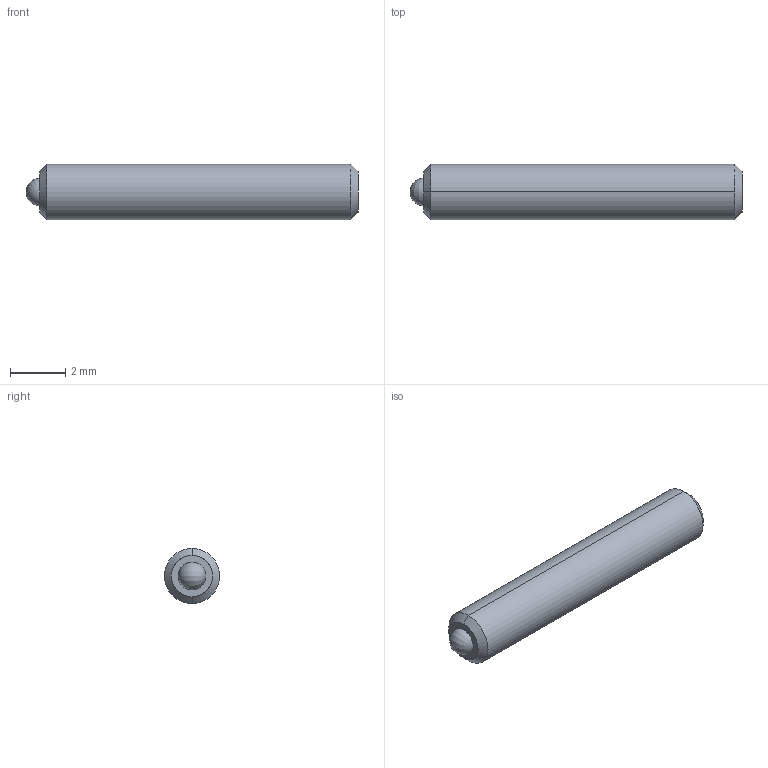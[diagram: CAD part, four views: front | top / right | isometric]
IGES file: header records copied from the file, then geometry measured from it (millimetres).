
Start section: SolidWorks IGES file using analytic representation for surfaces
Global section: file name: C:\Users\workpc\Desktop\KMA Solidworks\TS2-25-12.IGS; native system: SolidWorks 2013; preprocessor: SolidWorks 2013; author: workpc; date: 130217.114758; units: millimetre
Bounding box: 12 x 2 x 2 mm (x, y, z)
Surface area: 87.5 mm2 (no closed solid volume)
Topology: 0 solids, 0 shells, 20 faces, 140 edges, 136 vertices
Faces by surface type: revolution 10, bspline 10
